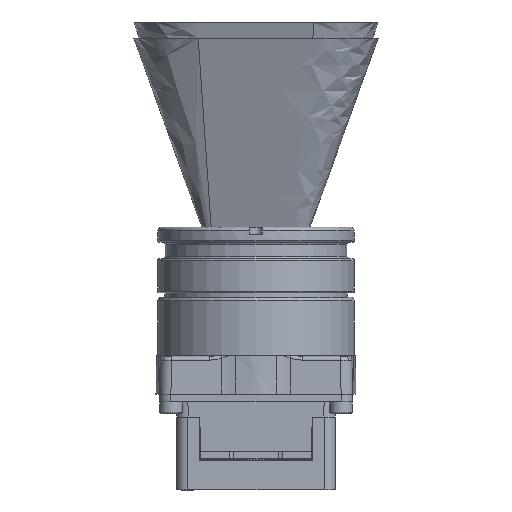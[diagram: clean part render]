
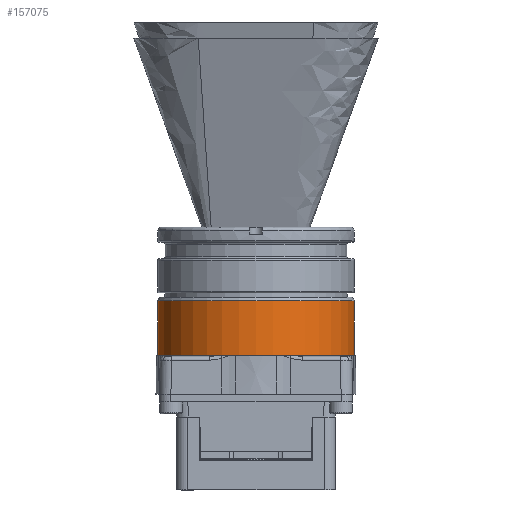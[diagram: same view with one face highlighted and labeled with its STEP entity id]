
A CAD part, front view. The second image highlights one B-rep face of the part: STEP entity #157075.
In plain terms, the highlighted cylindrical face has radius 13 mm (diameter 26 mm), a partial arc.
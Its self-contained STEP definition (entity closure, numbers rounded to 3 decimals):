
#1068 = CYLINDRICAL_SURFACE ( 'NONE', #174352, 13. ) ;
#3128 = DIRECTION ( 'NONE',  ( 1., 0., 0. ) ) ;
#7606 = EDGE_CURVE ( 'NONE', #164452, #88142, #163837, .T. ) ;
#8293 = CARTESIAN_POINT ( 'NONE',  ( -13., 0., 3.1 ) ) ;
#15179 = CARTESIAN_POINT ( 'NONE',  ( 0., 0., 3.1 ) ) ;
#18853 = EDGE_CURVE ( 'NONE', #88142, #75540, #46071, .T. ) ;
#20993 = ORIENTED_EDGE ( 'NONE', *, *, #7606, .T. ) ;
#25167 = DIRECTION ( 'NONE',  ( 0., 0., -1. ) ) ;
#28944 = DIRECTION ( 'NONE',  ( 1., 0., 0. ) ) ;
#38660 = CIRCLE ( 'NONE', #48452, 13. ) ;
#39725 = AXIS2_PLACEMENT_3D ( 'NONE', #144207, #25167, #143876 ) ;
#42288 = ORIENTED_EDGE ( 'NONE', *, *, #18853, .T. ) ;
#43962 = CARTESIAN_POINT ( 'NONE',  ( 0., 0., 3.1 ) ) ;
#46071 = CIRCLE ( 'NONE', #39725, 13. ) ;
#48452 = AXIS2_PLACEMENT_3D ( 'NONE', #15179, #110947, #28944 ) ;
#63418 = ORIENTED_EDGE ( 'NONE', *, *, #76508, .F. ) ;
#66652 = DIRECTION ( 'NONE',  ( 0., 0., 1. ) ) ;
#72443 = LINE ( 'NONE', #8293, #145188 ) ;
#72682 = CARTESIAN_POINT ( 'NONE',  ( 13., 0., 3.1 ) ) ;
#73874 = FACE_OUTER_BOUND ( 'NONE', #152687, .T. ) ;
#75540 = VERTEX_POINT ( 'NONE', #176793 ) ;
#76508 = EDGE_CURVE ( 'NONE', #86793, #75540, #72443, .T. ) ;
#85232 = DIRECTION ( 'NONE',  ( 0., 0., 1. ) ) ;
#85613 = VECTOR ( 'NONE', #66652, 1000. ) ;
#86793 = VERTEX_POINT ( 'NONE', #121509 ) ;
#88142 = VERTEX_POINT ( 'NONE', #144885 ) ;
#104152 = DIRECTION ( 'NONE',  ( 0., 0., 1. ) ) ;
#105582 = EDGE_CURVE ( 'NONE', #86793, #164452, #38660, .T. ) ;
#110947 = DIRECTION ( 'NONE',  ( 0., 0., 1. ) ) ;
#121509 = CARTESIAN_POINT ( 'NONE',  ( -13., 0., 3.1 ) ) ;
#125824 = ORIENTED_EDGE ( 'NONE', *, *, #105582, .T. ) ;
#136270 = CARTESIAN_POINT ( 'NONE',  ( 13., 0., 3.1 ) ) ;
#143876 = DIRECTION ( 'NONE',  ( 1., 0., 0. ) ) ;
#144207 = CARTESIAN_POINT ( 'NONE',  ( 0., 0., 10.367 ) ) ;
#144885 = CARTESIAN_POINT ( 'NONE',  ( 13., 0., 10.367 ) ) ;
#145188 = VECTOR ( 'NONE', #104152, 1000. ) ;
#152687 = EDGE_LOOP ( 'NONE', ( #63418, #125824, #20993, #42288 ) ) ;
#157075 = ADVANCED_FACE ( 'NONE', ( #73874 ), #1068, .T. ) ;
#163837 = LINE ( 'NONE', #72682, #85613 ) ;
#164452 = VERTEX_POINT ( 'NONE', #136270 ) ;
#174352 = AXIS2_PLACEMENT_3D ( 'NONE', #43962, #85232, #3128 ) ;
#176793 = CARTESIAN_POINT ( 'NONE',  ( -13., 0., 10.367 ) ) ;
